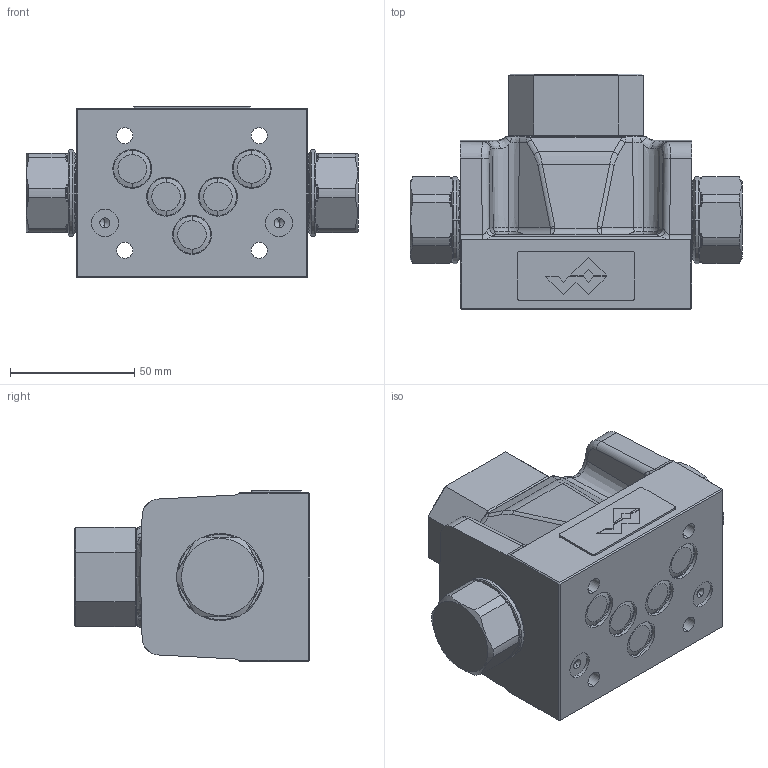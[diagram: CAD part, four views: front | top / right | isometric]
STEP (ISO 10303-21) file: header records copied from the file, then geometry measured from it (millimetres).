
FILE_DESCRIPTION (( 'STEP AP214' ), '1' );
FILE_NAME ('WFFFA06-te.STEP', '2023-02-20T14:58:14', ( '' ), ( '' ), 'SwSTEP 2.0', 'SolidWorks 2022', '' );
FILE_SCHEMA (( 'AUTOMOTIVE_DESIGN' ));
Length unit declared in the file: millimetre
Products named in the file (1): WFFFA06-te
Bounding box: 133.4 x 94.6 x 68.8 mm (x, y, z)
Volume: 437803.2 mm3; surface area: 49578.8 mm2
Topology: 1 solids, 1 shells, 613 faces, 1480 edges, 894 vertices
Faces by surface type: plane 240, cylinder 163, bspline 98, cone 59, torus 53
Entity records: 28326 total; most frequent: CARTESIAN_POINT 8399, ORIENTED_EDGE 2932, DIRECTION 2531, EDGE_CURVE 1466, AXIS2_PLACEMENT_3D 927, VERTEX_POINT 894, LINE 677, VECTOR 677
